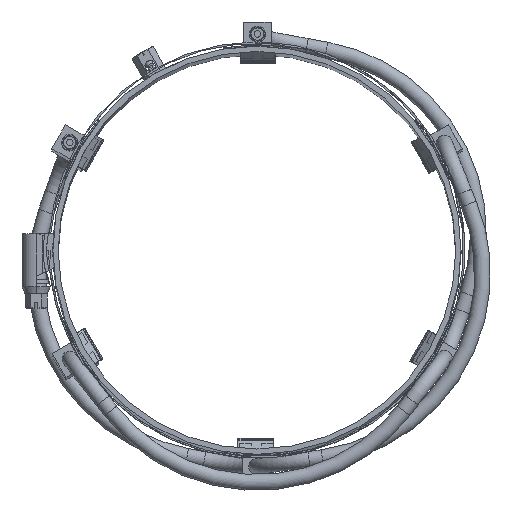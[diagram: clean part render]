
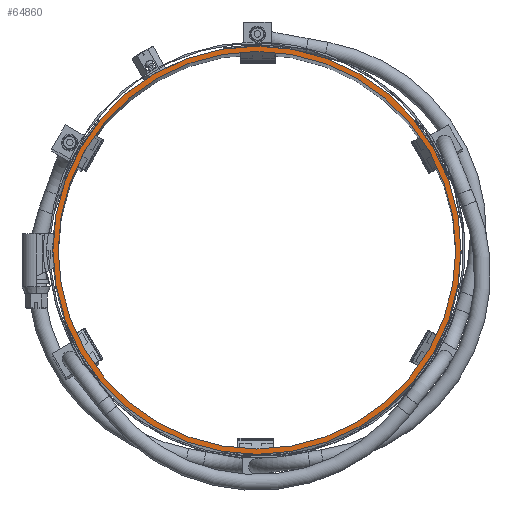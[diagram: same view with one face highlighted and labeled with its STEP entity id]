
A CAD part, top view. The second image highlights one B-rep face of the part: STEP entity #64860.
In plain terms, the highlighted planar face has unit normal (0, 0, 1).
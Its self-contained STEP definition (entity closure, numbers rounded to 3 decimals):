
#14524=ORIENTED_EDGE('',*,*,#18963,.T.);
#14525=ORIENTED_EDGE('',*,*,#19052,.T.);
#17472=CIRCLE('',#63437,77.);
#17507=CIRCLE('',#63477,75.);
#17912=VERTEX_POINT('',#25080);
#18001=VERTEX_POINT('',#29111);
#18963=EDGE_CURVE('',#17912,#17912,#17472,.T.);
#19052=EDGE_CURVE('',#18001,#18001,#17507,.T.);
#20492=EDGE_LOOP('',(#14524));
#20493=EDGE_LOOP('',(#14525));
#21266=FACE_BOUND('',#20492,.T.);
#21267=FACE_BOUND('',#20493,.T.);
#22050=DIRECTION('',(0.,0.,1.));
#22051=DIRECTION('',(77.,0.,0.));
#22154=DIRECTION('',(0.,0.,1.));
#22155=DIRECTION('',(0.,-1.,0.));
#22156=DIRECTION('',(0.,0.,-1.));
#22157=DIRECTION('',(75.,0.,0.));
#25080=CARTESIAN_POINT('',(77.,0.,700.));
#25081=CARTESIAN_POINT('',(0.,0.,700.));
#29110=CARTESIAN_POINT('',(77.,0.,700.));
#29111=CARTESIAN_POINT('',(75.,0.,700.));
#29112=CARTESIAN_POINT('',(0.,0.,700.));
#63437=AXIS2_PLACEMENT_3D('',#25081,#22050,#22051);
#63476=AXIS2_PLACEMENT_3D('',#29110,#22154,#22155);
#63477=AXIS2_PLACEMENT_3D('',#29112,#22156,#22157);
#64521=PLANE('',#63476);
#64860=ADVANCED_FACE('',(#21266,#21267),#64521,.T.);
